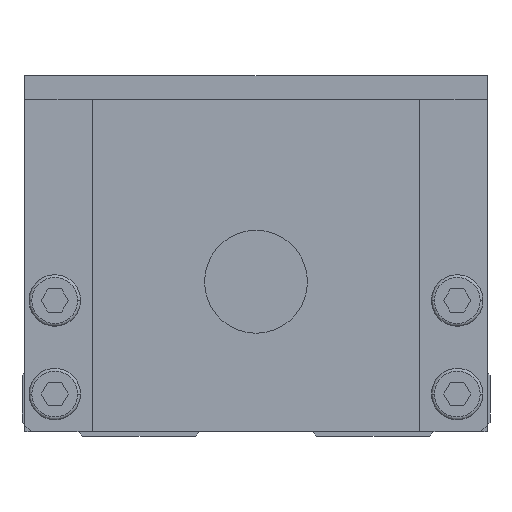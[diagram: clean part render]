
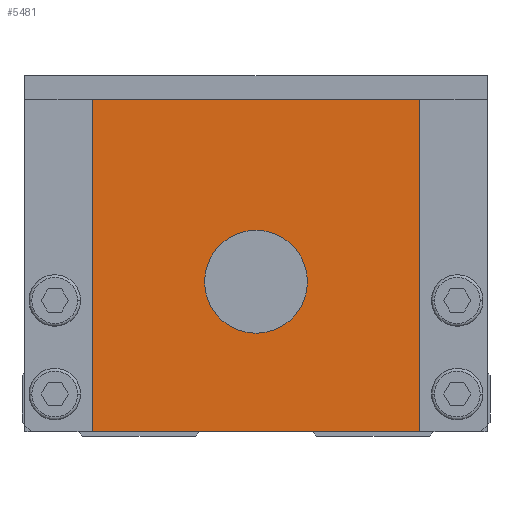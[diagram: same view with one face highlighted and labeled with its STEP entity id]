
A CAD part, front view. The second image highlights one B-rep face of the part: STEP entity #5481.
In plain terms, the highlighted planar face has unit normal (0, -1, 0).
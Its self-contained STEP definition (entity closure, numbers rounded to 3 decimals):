
#5481=ADVANCED_FACE('',(#15499,#15500),#15501,.F.);
#6041=EDGE_CURVE('',#8343,#12437,#16122,.T.);
#7779=EDGE_CURVE('',#10713,#12437,#18027,.T.);
#7933=EDGE_CURVE('',#8937,#9885,#18198,.T.);
#8193=EDGE_CURVE('',#13899,#8343,#18491,.T.);
#8343=VERTEX_POINT('',#18651);
#8937=VERTEX_POINT('',#19323);
#9105=EDGE_CURVE('',#10713,#13899,#19509,.T.);
#9885=VERTEX_POINT('',#20368);
#10561=EDGE_CURVE('',#9885,#8937,#21115,.T.);
#10713=VERTEX_POINT('',#21285);
#12437=VERTEX_POINT('',#23196);
#13899=VERTEX_POINT('',#24822);
#15499=FACE_BOUND('',#26790,.T.);
#15500=FACE_OUTER_BOUND('',#26791,.T.);
#15501=PLANE('',#26792);
#16122=LINE('',#27791,#27792);
#18027=LINE('',#30653,#30654);
#18198=CIRCLE('',#30885,5.5);
#18491=LINE('',#31287,#31288);
#18651=CARTESIAN_POINT('',(17.5,0.0,0.5));
#19323=CARTESIAN_POINT('',(5.5,0.0,16.5));
#19509=LINE('',#32712,#32713);
#20368=CARTESIAN_POINT('',(-5.5,0.0,16.5));
#21115=CIRCLE('',#35073,5.5);
#21285=CARTESIAN_POINT('',(-17.5,0.0,36.0));
#23196=CARTESIAN_POINT('',(-17.5,0.0,0.5));
#24822=CARTESIAN_POINT('',(17.5,0.0,36.0));
#26790=EDGE_LOOP('',(#42733,#42734));
#26791=EDGE_LOOP('',(#42735,#42736,#42737,#42738));
#26792=AXIS2_PLACEMENT_3D('',#42739,#42740,#42741);
#27791=CARTESIAN_POINT('',(0.0,0.0,0.5));
#27792=VECTOR('',#43467,1.0);
#30653=CARTESIAN_POINT('',(-17.5,0.0,18.25));
#30654=VECTOR('',#45505,1.0);
#30885=AXIS2_PLACEMENT_3D('',#45716,#45717,#45718);
#31287=CARTESIAN_POINT('',(17.5,0.0,18.25));
#31288=VECTOR('',#46077,1.0);
#32712=CARTESIAN_POINT('',(0.0,0.0,36.0));
#32713=VECTOR('',#47338,1.0);
#35073=AXIS2_PLACEMENT_3D('',#49168,#49169,#49170);
#42733=ORIENTED_EDGE('',*,*,#7933,.T.);
#42734=ORIENTED_EDGE('',*,*,#10561,.T.);
#42735=ORIENTED_EDGE('',*,*,#7779,.T.);
#42736=ORIENTED_EDGE('',*,*,#6041,.F.);
#42737=ORIENTED_EDGE('',*,*,#8193,.F.);
#42738=ORIENTED_EDGE('',*,*,#9105,.F.);
#42739=CARTESIAN_POINT('',(0.0,0.0,18.25));
#42740=DIRECTION('',(0.0,1.0,0.0));
#42741=DIRECTION('',(0.0,0.0,1.0));
#43467=DIRECTION('',(-1.0,0.0,0.0));
#45505=DIRECTION('',(0.0,0.0,-1.0));
#45716=CARTESIAN_POINT('',(0.0,0.0,16.5));
#45717=DIRECTION('',(-0.0,1.0,0.0));
#45718=DIRECTION('',(1.0,0.0,0.0));
#46077=DIRECTION('',(0.0,0.0,-1.0));
#47338=DIRECTION('',(1.0,0.0,0.0));
#49168=CARTESIAN_POINT('',(0.0,0.0,16.5));
#49169=DIRECTION('',(-0.0,1.0,0.0));
#49170=DIRECTION('',(1.0,0.0,0.0));
